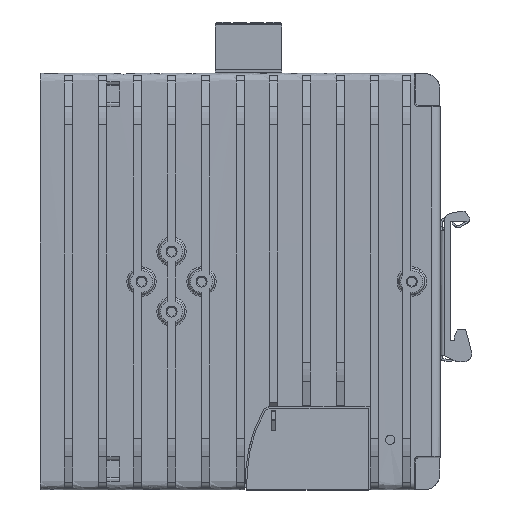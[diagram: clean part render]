
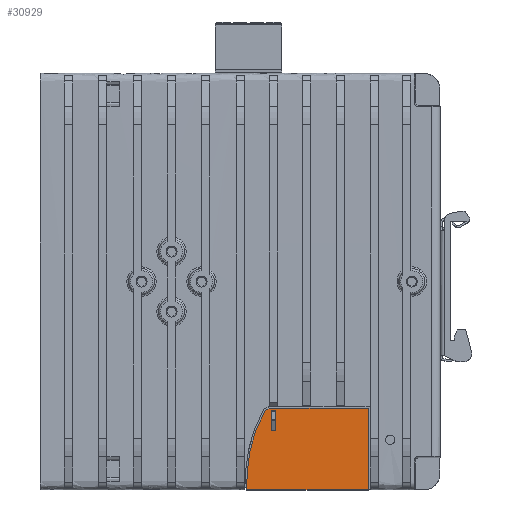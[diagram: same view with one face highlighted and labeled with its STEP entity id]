
A CAD part, top view. The second image highlights one B-rep face of the part: STEP entity #30929.
In plain terms, the highlighted planar face has unit normal (0, 0, 1) as drawn and (-1, 0, 0) by its records, which use the part's own axes.
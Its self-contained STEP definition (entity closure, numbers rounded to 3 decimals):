
#1165=CIRCLE('',#32493,2.6);
#1294=CIRCLE('',#32766,40.6);
#5402=ORIENTED_EDGE('',*,*,#10651,.F.);
#5403=ORIENTED_EDGE('',*,*,#10652,.T.);
#5404=ORIENTED_EDGE('',*,*,#10653,.F.);
#5405=ORIENTED_EDGE('',*,*,#10654,.F.);
#5406=ORIENTED_EDGE('',*,*,#10637,.F.);
#5407=ORIENTED_EDGE('',*,*,#10650,.F.);
#5408=ORIENTED_EDGE('',*,*,#9909,.F.);
#5409=ORIENTED_EDGE('',*,*,#9906,.F.);
#5410=ORIENTED_EDGE('',*,*,#10647,.F.);
#5411=ORIENTED_EDGE('',*,*,#10644,.F.);
#9906=EDGE_CURVE('',#12857,#12858,#1165,.T.);
#9909=EDGE_CURVE('',#12858,#12860,#15243,.T.);
#10637=EDGE_CURVE('',#13467,#13468,#15609,.T.);
#10644=EDGE_CURVE('',#13468,#13470,#15612,.T.);
#10647=EDGE_CURVE('',#13470,#12857,#1294,.T.);
#10650=EDGE_CURVE('',#12860,#13467,#15616,.T.);
#10651=EDGE_CURVE('',#13472,#13473,#15617,.T.);
#10652=EDGE_CURVE('',#13472,#13474,#15618,.T.);
#10653=EDGE_CURVE('',#13475,#13474,#15619,.T.);
#10654=EDGE_CURVE('',#13473,#13475,#15620,.T.);
#12857=VERTEX_POINT('',#43461);
#12858=VERTEX_POINT('',#43463);
#12860=VERTEX_POINT('',#43469);
#13467=VERTEX_POINT('',#46751);
#13468=VERTEX_POINT('',#46753);
#13470=VERTEX_POINT('',#46763);
#13472=VERTEX_POINT('',#46776);
#13473=VERTEX_POINT('',#46777);
#13474=VERTEX_POINT('',#46779);
#13475=VERTEX_POINT('',#46781);
#15243=LINE('',#43468,#17522);
#15609=LINE('',#46752,#17888);
#15612=LINE('',#46762,#17891);
#15616=LINE('',#46772,#17895);
#15617=LINE('',#46775,#17896);
#15618=LINE('',#46778,#17897);
#15619=LINE('',#46780,#17898);
#15620=LINE('',#46782,#17899);
#17522=VECTOR('',#36700,1000.);
#17888=VECTOR('',#37596,1000.);
#17891=VECTOR('',#37609,1000.);
#17895=VECTOR('',#37621,1000.);
#17896=VECTOR('',#37626,1000.);
#17897=VECTOR('',#37627,1000.);
#17898=VECTOR('',#37628,1000.);
#17899=VECTOR('',#37629,1000.);
#19533=EDGE_LOOP('',(#5402,#5403,#5404,#5405));
#19534=EDGE_LOOP('',(#5406,#5407,#5408,#5409,#5410,#5411));
#21053=FACE_BOUND('',#19533,.T.);
#21054=FACE_BOUND('',#19534,.T.);
#22199=PLANE('',#32770);
#30929=ADVANCED_FACE('',(#21053,#21054),#22199,.F.);
#32493=AXIS2_PLACEMENT_3D('',#43462,#36694,#36695);
#32766=AXIS2_PLACEMENT_3D('',#46768,#37614,#37615);
#32770=AXIS2_PLACEMENT_3D('',#46774,#37624,#37625);
#36694=DIRECTION('',(1.,0.,0.));
#36695=DIRECTION('',(0.,0.,-1.));
#36700=DIRECTION('',(0.,0.,-1.));
#37596=DIRECTION('',(0.,0.,1.));
#37609=DIRECTION('',(0.,-0.999,-0.045));
#37614=DIRECTION('',(1.,0.,0.));
#37615=DIRECTION('',(0.,0.,-1.));
#37621=DIRECTION('',(0.,1.,0.));
#37624=DIRECTION('',(1.,0.,0.));
#37625=DIRECTION('',(0.,0.,-1.));
#37626=DIRECTION('',(0.,0.,-1.));
#37627=DIRECTION('',(0.,-1.,0.));
#37628=DIRECTION('',(0.,0.,1.));
#37629=DIRECTION('',(0.,-1.,0.));
#43461=CARTESIAN_POINT('',(-32.5,39.341,52.823));
#43462=CARTESIAN_POINT('',(-32.5,40.6,50.548));
#43463=CARTESIAN_POINT('',(-32.5,38.,50.548));
#43468=CARTESIAN_POINT('',(-32.5,38.,50.548));
#43469=CARTESIAN_POINT('',(-32.5,38.,21.5));
#46751=CARTESIAN_POINT('',(-32.5,62.5,21.5));
#46752=CARTESIAN_POINT('',(-32.5,62.5,21.5));
#46753=CARTESIAN_POINT('',(-32.5,62.5,58.1));
#46762=CARTESIAN_POINT('',(-32.5,62.5,58.1));
#46763=CARTESIAN_POINT('',(-32.5,57.164,57.858));
#46768=CARTESIAN_POINT('',(-32.5,59.,17.3));
#46772=CARTESIAN_POINT('',(-32.5,38.,21.5));
#46774=CARTESIAN_POINT('',(-32.5,59.,17.3));
#46775=CARTESIAN_POINT('',(-32.5,44.658,17.3));
#46776=CARTESIAN_POINT('',(-32.5,44.658,50.7));
#46777=CARTESIAN_POINT('',(-32.5,44.658,49.3));
#46778=CARTESIAN_POINT('',(-32.5,59.,50.7));
#46779=CARTESIAN_POINT('',(-32.5,38.528,50.7));
#46780=CARTESIAN_POINT('',(-32.5,38.528,17.3));
#46781=CARTESIAN_POINT('',(-32.5,38.528,49.3));
#46782=CARTESIAN_POINT('',(-32.5,59.,49.3));
